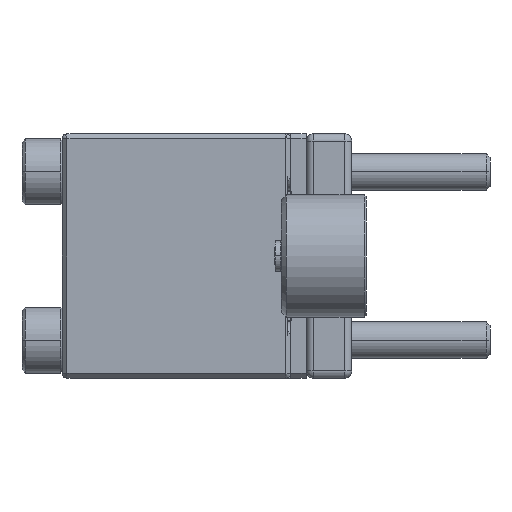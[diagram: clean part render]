
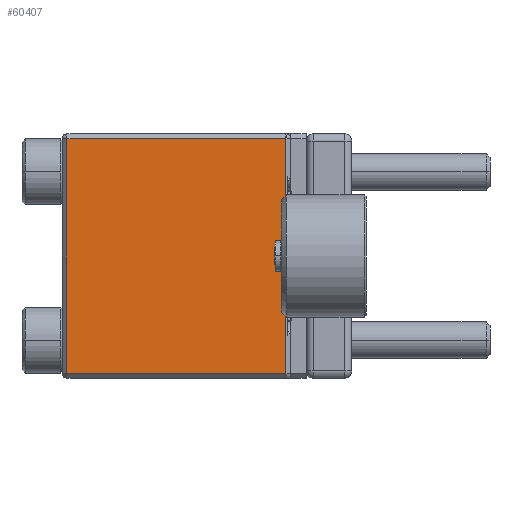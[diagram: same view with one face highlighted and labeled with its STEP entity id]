
A CAD part, left-side view. The second image highlights one B-rep face of the part: STEP entity #60407.
In plain terms, the highlighted planar face has unit normal (-1, 0, 0).
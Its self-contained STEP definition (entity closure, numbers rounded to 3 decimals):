
#306 = CARTESIAN_POINT ( 'NONE',  ( -28.575, -23.749, -12.192 ) ) ;
#744 = LINE ( 'NONE', #306, #46314 ) ;
#1151 = ORIENTED_EDGE ( 'NONE', *, *, #68382, .T. ) ;
#4862 = VERTEX_POINT ( 'NONE', #74145 ) ;
#5039 = CARTESIAN_POINT ( 'NONE',  ( -28.575, -23.241, 12.192 ) ) ;
#6255 = CARTESIAN_POINT ( 'NONE',  ( -28.575, -23.749, 12.192 ) ) ;
#12875 = CARTESIAN_POINT ( 'NONE',  ( -28.575, -23.241, 12.7 ) ) ;
#15722 = ORIENTED_EDGE ( 'NONE', *, *, #56484, .T. ) ;
#19443 = LINE ( 'NONE', #6255, #67917 ) ;
#23309 = CARTESIAN_POINT ( 'NONE',  ( -28.575, -0.508, 12.7 ) ) ;
#26295 = ORIENTED_EDGE ( 'NONE', *, *, #53299, .T. ) ;
#26851 = AXIS2_PLACEMENT_3D ( 'NONE', #47616, #80627, #60406 ) ;
#28182 = VERTEX_POINT ( 'NONE', #5039 ) ;
#29369 = VECTOR ( 'NONE', #32708, 1000. ) ;
#30937 = VERTEX_POINT ( 'NONE', #65947 ) ;
#32708 = DIRECTION ( 'NONE',  ( 0., 0., 1. ) ) ;
#33072 = VERTEX_POINT ( 'NONE', #48463 ) ;
#34185 = DIRECTION ( 'NONE',  ( 0., -1., 0. ) ) ;
#46314 = VECTOR ( 'NONE', #34185, 1000. ) ;
#46732 = EDGE_LOOP ( 'NONE', ( #15722, #1151, #59408, #26295 ) ) ;
#47616 = CARTESIAN_POINT ( 'NONE',  ( -28.575, -23.749, 12.7 ) ) ;
#48463 = CARTESIAN_POINT ( 'NONE',  ( -28.575, -0.508, 12.192 ) ) ;
#52513 = DIRECTION ( 'NONE',  ( 0., 1., 0. ) ) ;
#53299 = EDGE_CURVE ( 'NONE', #30937, #4862, #744, .T. ) ;
#56484 = EDGE_CURVE ( 'NONE', #4862, #28182, #74935, .T. ) ;
#59408 = ORIENTED_EDGE ( 'NONE', *, *, #62336, .T. ) ;
#59988 = PLANE ( 'NONE',  #26851 ) ;
#60406 = DIRECTION ( 'NONE',  ( 0., 0., 1. ) ) ;
#60407 = ADVANCED_FACE ( 'NONE', ( #61280 ), #59988, .T. ) ;
#61280 = FACE_OUTER_BOUND ( 'NONE', #46732, .T. ) ;
#62336 = EDGE_CURVE ( 'NONE', #33072, #30937, #77911, .T. ) ;
#65947 = CARTESIAN_POINT ( 'NONE',  ( -28.575, -0.508, -12.192 ) ) ;
#67917 = VECTOR ( 'NONE', #52513, 1000. ) ;
#68382 = EDGE_CURVE ( 'NONE', #28182, #33072, #19443, .T. ) ;
#74145 = CARTESIAN_POINT ( 'NONE',  ( -28.575, -23.241, -12.192 ) ) ;
#74935 = LINE ( 'NONE', #12875, #29369 ) ;
#77028 = DIRECTION ( 'NONE',  ( 0., 0., -1. ) ) ;
#77911 = LINE ( 'NONE', #23309, #81776 ) ;
#80627 = DIRECTION ( 'NONE',  ( -1., 0., 0. ) ) ;
#81776 = VECTOR ( 'NONE', #77028, 1000. ) ;
